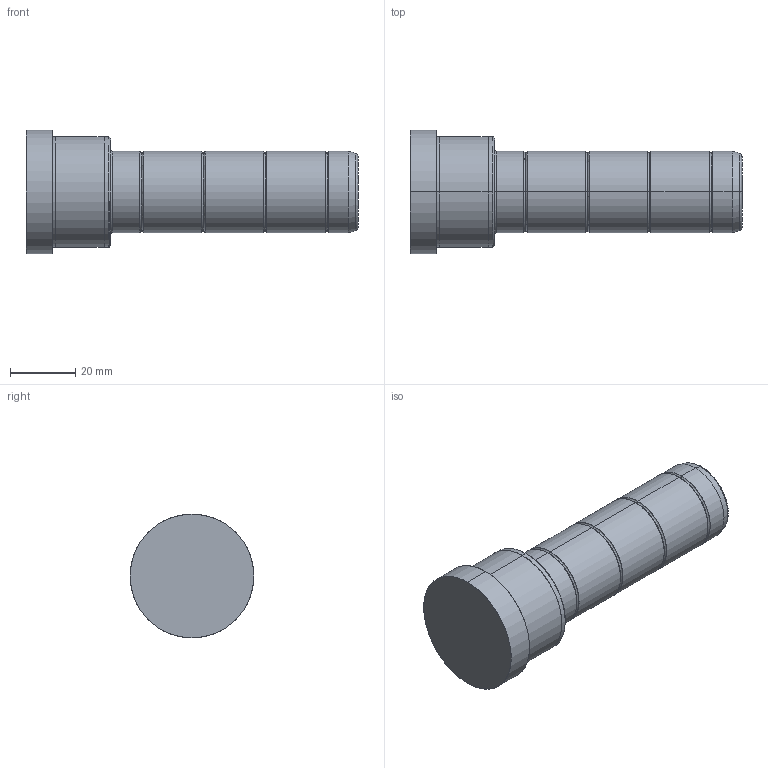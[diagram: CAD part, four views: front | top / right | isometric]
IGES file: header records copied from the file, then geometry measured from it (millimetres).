
Start section: SolidWorks IGES file using analytic representation for surfaces
Global section: file name: C:\Documents and Settings\kalite-mail\Desktop\IGS\D02\25\D02 - 25x26x76.IGS; native system: SolidWorks 2008; preprocessor: SolidWorks 2008; author: kalite-mail; date: 080616.172017; units: millimetre
Bounding box: 102 x 38 x 38 mm (x, y, z)
Surface area: 11158.9 mm2 (no closed solid volume)
Topology: 0 solids, 0 shells, 48 faces, 744 edges, 744 vertices
Faces by surface type: bspline 26, revolution 22
